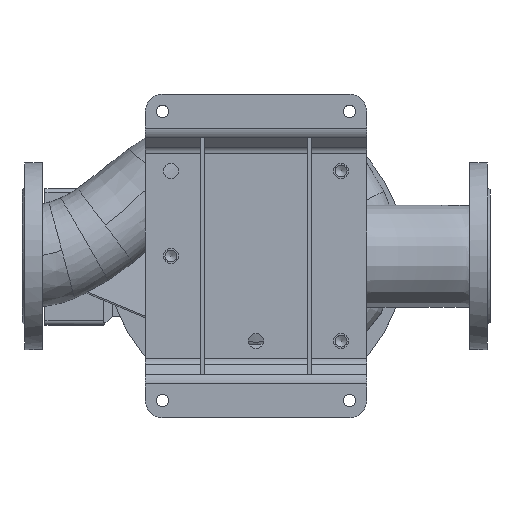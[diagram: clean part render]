
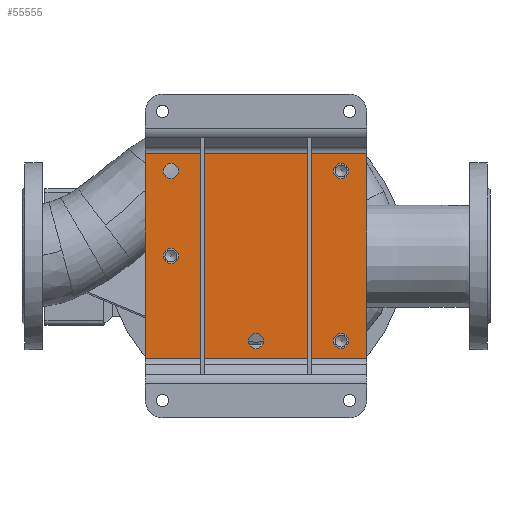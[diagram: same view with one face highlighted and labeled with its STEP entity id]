
A CAD part, top view. The second image highlights one B-rep face of the part: STEP entity #55555.
In plain terms, the highlighted planar face has unit normal (0, 0, 1) as drawn and (0, -1, 0) by its records, which use the part's own axes.
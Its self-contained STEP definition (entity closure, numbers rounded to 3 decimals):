
#774 = DIRECTION ( 'NONE',  ( 0., -1., 0. ) ) ;
#1918 = CARTESIAN_POINT ( 'NONE',  ( 120., -5., -130. ) ) ;
#2423 = CARTESIAN_POINT ( 'NONE',  ( -120., -5., -130. ) ) ;
#2519 = CARTESIAN_POINT ( 'NONE',  ( 100., -5., 91. ) ) ;
#3150 = EDGE_LOOP ( 'NONE', ( #18666 ) ) ;
#5521 = CARTESIAN_POINT ( 'NONE',  ( -100., -5., 100. ) ) ;
#6061 = EDGE_CURVE ( 'NONE', #65266, #34359, #12240, .T. ) ;
#6293 = CIRCLE ( 'NONE', #16604, 9. ) ;
#8625 = DIRECTION ( 'NONE',  ( 0., -1., 0. ) ) ;
#10782 = EDGE_CURVE ( 'NONE', #14642, #14642, #6293, .T. ) ;
#12134 = ORIENTED_EDGE ( 'NONE', *, *, #6061, .F. ) ;
#12240 = LINE ( 'NONE', #31625, #14375 ) ;
#14140 = EDGE_CURVE ( 'NONE', #77777, #77777, #49046, .T. ) ;
#14375 = VECTOR ( 'NONE', #25140, 1000. ) ;
#14541 = LINE ( 'NONE', #2423, #67110 ) ;
#14642 = VERTEX_POINT ( 'NONE', #39320 ) ;
#16604 = AXIS2_PLACEMENT_3D ( 'NONE', #5521, #60137, #71919 ) ;
#18609 = EDGE_LOOP ( 'NONE', ( #71266 ) ) ;
#18666 = ORIENTED_EDGE ( 'NONE', *, *, #14140, .F. ) ;
#19281 = CARTESIAN_POINT ( 'NONE',  ( -120., -5., -130. ) ) ;
#19380 = CARTESIAN_POINT ( 'NONE',  ( -100., -5., -100. ) ) ;
#20120 = VECTOR ( 'NONE', #37818, 1000. ) ;
#20382 = DIRECTION ( 'NONE',  ( 0., 0., -1. ) ) ;
#20690 = PLANE ( 'NONE',  #29423 ) ;
#21854 = CIRCLE ( 'NONE', #54151, 9. ) ;
#24520 = CIRCLE ( 'NONE', #69773, 9. ) ;
#25140 = DIRECTION ( 'NONE',  ( 0., 0., -1. ) ) ;
#25175 = EDGE_LOOP ( 'NONE', ( #67646 ) ) ;
#25537 = FACE_BOUND ( 'NONE', #66006, .T. ) ;
#25947 = FACE_OUTER_BOUND ( 'NONE', #40156, .T. ) ;
#27219 = DIRECTION ( 'NONE',  ( 0., 0., -1. ) ) ;
#27389 = VERTEX_POINT ( 'NONE', #72175 ) ;
#27909 = EDGE_CURVE ( 'NONE', #35635, #35635, #24520, .T. ) ;
#29423 = AXIS2_PLACEMENT_3D ( 'NONE', #37707, #50247, #63190 ) ;
#30718 = DIRECTION ( 'NONE',  ( 0., 0., -1. ) ) ;
#30761 = VERTEX_POINT ( 'NONE', #62330 ) ;
#31625 = CARTESIAN_POINT ( 'NONE',  ( 120., -5., 130. ) ) ;
#31879 = EDGE_CURVE ( 'NONE', #38024, #38024, #42474, .T. ) ;
#32947 = EDGE_CURVE ( 'NONE', #30761, #30761, #21854, .T. ) ;
#33956 = EDGE_CURVE ( 'NONE', #34359, #53444, #14541, .T. ) ;
#34359 = VERTEX_POINT ( 'NONE', #1918 ) ;
#34720 = ORIENTED_EDGE ( 'NONE', *, *, #32947, .F. ) ;
#35635 = VERTEX_POINT ( 'NONE', #54277 ) ;
#36626 = LINE ( 'NONE', #68608, #20120 ) ;
#37612 = VECTOR ( 'NONE', #75762, 1000. ) ;
#37707 = CARTESIAN_POINT ( 'NONE',  ( 0., -5., 0. ) ) ;
#37818 = DIRECTION ( 'NONE',  ( 0., 0., 1. ) ) ;
#38024 = VERTEX_POINT ( 'NONE', #69206 ) ;
#38655 = ORIENTED_EDGE ( 'NONE', *, *, #59176, .F. ) ;
#39320 = CARTESIAN_POINT ( 'NONE',  ( -100., -5., 91. ) ) ;
#39358 = CARTESIAN_POINT ( 'NONE',  ( 0., -5., -100. ) ) ;
#39400 = CARTESIAN_POINT ( 'NONE',  ( 100., -5., 100. ) ) ;
#40156 = EDGE_LOOP ( 'NONE', ( #12134, #79371, #38655, #50383 ) ) ;
#42474 = CIRCLE ( 'NONE', #68319, 9. ) ;
#43782 = FACE_BOUND ( 'NONE', #25175, .T. ) ;
#47099 = EDGE_LOOP ( 'NONE', ( #34720 ) ) ;
#49046 = CIRCLE ( 'NONE', #56775, 9. ) ;
#49850 = FACE_BOUND ( 'NONE', #47099, .T. ) ;
#50247 = DIRECTION ( 'NONE',  ( 0., -1., 0. ) ) ;
#50383 = ORIENTED_EDGE ( 'NONE', *, *, #33956, .F. ) ;
#51050 = LINE ( 'NONE', #76165, #37612 ) ;
#51336 = CARTESIAN_POINT ( 'NONE',  ( 100., -5., 0. ) ) ;
#51746 = DIRECTION ( 'NONE',  ( 0., 0., -1. ) ) ;
#52938 = DIRECTION ( 'NONE',  ( 0., -1., 0. ) ) ;
#53444 = VERTEX_POINT ( 'NONE', #19281 ) ;
#54151 = AXIS2_PLACEMENT_3D ( 'NONE', #39358, #8625, #27219 ) ;
#54277 = CARTESIAN_POINT ( 'NONE',  ( -100., -5., -109. ) ) ;
#54622 = CARTESIAN_POINT ( 'NONE',  ( 120., -5., 130. ) ) ;
#55555 = ADVANCED_FACE ( 'NONE', ( #68492, #43782, #49850, #56711, #25537, #25947 ), #20690, .T. ) ;
#56711 = FACE_BOUND ( 'NONE', #3150, .T. ) ;
#56775 = AXIS2_PLACEMENT_3D ( 'NONE', #39400, #77051, #20382 ) ;
#59176 = EDGE_CURVE ( 'NONE', #53444, #27389, #36626, .T. ) ;
#60137 = DIRECTION ( 'NONE',  ( 0., -1., 0. ) ) ;
#60190 = EDGE_CURVE ( 'NONE', #27389, #65266, #51050, .T. ) ;
#62330 = CARTESIAN_POINT ( 'NONE',  ( 0., -5., -109. ) ) ;
#62719 = DIRECTION ( 'NONE',  ( -1., 0., 0. ) ) ;
#63190 = DIRECTION ( 'NONE',  ( 0., 0., -1. ) ) ;
#65266 = VERTEX_POINT ( 'NONE', #54622 ) ;
#66006 = EDGE_LOOP ( 'NONE', ( #77296 ) ) ;
#67110 = VECTOR ( 'NONE', #62719, 1000. ) ;
#67646 = ORIENTED_EDGE ( 'NONE', *, *, #27909, .F. ) ;
#68319 = AXIS2_PLACEMENT_3D ( 'NONE', #51336, #52938, #51746 ) ;
#68492 = FACE_BOUND ( 'NONE', #18609, .T. ) ;
#68608 = CARTESIAN_POINT ( 'NONE',  ( -120., -5., 130. ) ) ;
#69206 = CARTESIAN_POINT ( 'NONE',  ( 100., -5., -9. ) ) ;
#69773 = AXIS2_PLACEMENT_3D ( 'NONE', #19380, #774, #30718 ) ;
#71266 = ORIENTED_EDGE ( 'NONE', *, *, #31879, .F. ) ;
#71919 = DIRECTION ( 'NONE',  ( 0., 0., -1. ) ) ;
#72175 = CARTESIAN_POINT ( 'NONE',  ( -120., -5., 130. ) ) ;
#75762 = DIRECTION ( 'NONE',  ( 1., 0., 0. ) ) ;
#76165 = CARTESIAN_POINT ( 'NONE',  ( -120., -5., 130. ) ) ;
#77051 = DIRECTION ( 'NONE',  ( 0., -1., 0. ) ) ;
#77296 = ORIENTED_EDGE ( 'NONE', *, *, #10782, .F. ) ;
#77777 = VERTEX_POINT ( 'NONE', #2519 ) ;
#79371 = ORIENTED_EDGE ( 'NONE', *, *, #60190, .F. ) ;
